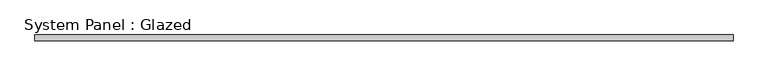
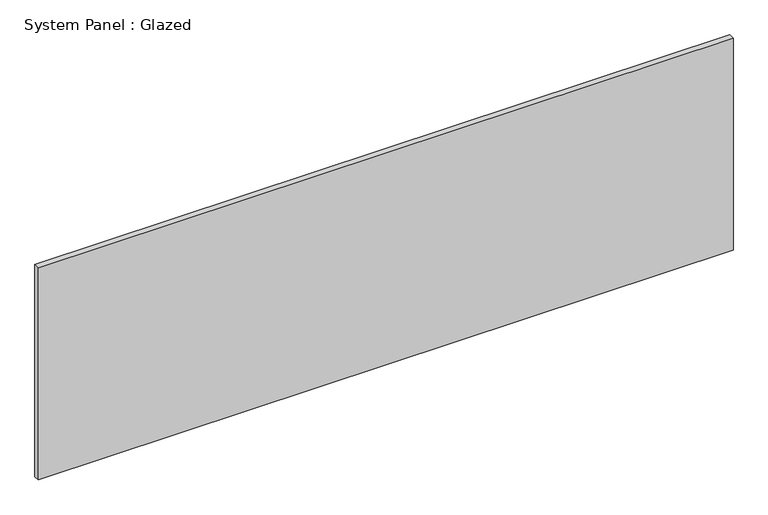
"""IFC4 building model written with IfcOpenShell, lengths in millimetres: plate geometry, System Panel : Glazed."""

import ifcopenshell
import ifcopenshell.guid

model = None  # the IFC model being written
_history = None  # IfcOwnerHistory: only IFC2X3 demands one
_inside = {}  # id of a spatial element -> (the spatial element, [elements in it])
_under = {}  # id of a project, library or spatial element -> (it, [spatial elements below it])
_declared = {}  # id of a project -> (the project, [libraries it declares])
_typed = {}  # id of a type object -> (the type object, [elements of that type])
_made_of = {}  # id of a material, layer set ... -> (it, [elements and type objects made of it])


def new_model(schema):
    """Start an empty IFC model of exactly this schema.

    Asked for "IFC4X3", IfcOpenShell would pick the latest addendum, in which some entities
    have other attributes; the version numbers below select the first issue.
    IFC2X3 requires an IfcOwnerHistory on every rooted entity: one is made here for all.
    """
    global model, _history
    if schema == "IFC4X3":
        model = ifcopenshell.file(schema_version=(4, 3, 0, 0))
    else:
        model = ifcopenshell.file(schema=schema)
    _inside.clear()
    _under.clear()
    _declared.clear()
    _typed.clear()
    _made_of.clear()
    _history = None
    if model.schema == "IFC2X3":
        org = make("IfcOrganization", Name="unknown")
        user = make(
            "IfcPersonAndOrganization",
            ThePerson=make("IfcPerson", FamilyName="unknown"),
            TheOrganization=org,
        )
        app = make(
            "IfcApplication",
            ApplicationDeveloper=org,
            Version="unknown",
            ApplicationFullName="unknown",
            ApplicationIdentifier="unknown",
        )
        _history = make(
            "IfcOwnerHistory",
            OwningUser=user,
            OwningApplication=app,
            ChangeAction="ADDED",
            CreationDate=0,
        )
    return model


def make(cls, **values):
    """One entity of the class cls with the attributes given. An attribute that is None is left unset."""
    return model.create_entity(
        cls, **{name: value for name, value in values.items() if value is not None}
    )


def rooted(cls, **values):
    """An entity with a GlobalId (a new one), such as an element, a storey or a relation."""
    return make(cls, GlobalId=ifcopenshell.guid.new(), OwnerHistory=_history, **values)


def si_unit(unit_type, name, prefix=None):
    """IfcSIUnit, for example si_unit("LENGTHUNIT", "METRE", prefix="MILLI")."""
    return make("IfcSIUnit", UnitType=unit_type, Prefix=prefix, Name=name)


def assignment(units):
    """IfcUnitAssignment: the units of a project."""
    return None if units is None else make("IfcUnitAssignment", Units=units)


def point(xyz):
    """IfcCartesianPoint."""
    return None if xyz is None else make("IfcCartesianPoint", Coordinates=xyz)


def direction(xyz):
    """IfcDirection."""
    return None if xyz is None else make("IfcDirection", DirectionRatios=xyz)


def frame(location, z_axis=None, x_axis=None):
    """IfcAxis2Placement3D, a coordinate frame: its origin and axes. An axis left out is left unset."""
    return make(
        "IfcAxis2Placement3D",
        Location=point(location),
        Axis=direction(z_axis),
        RefDirection=direction(x_axis),
    )


def origin():
    """The frame at (0, 0, 0) with its axes left unset."""
    return frame((0.0, 0.0, 0.0))


def origin_with_axes():
    """The frame at (0, 0, 0) with the z axis (0, 0, 1) and the x axis (1, 0, 0) written out."""
    return frame((0.0, 0.0, 0.0), z_axis=(0.0, 0.0, 1.0), x_axis=(1.0, 0.0, 0.0))


def place(relative_to, where):
    """IfcLocalPlacement: puts the frame where relative to a parent placement (None: the world)."""
    return make(
        "IfcLocalPlacement", PlacementRelTo=relative_to, RelativePlacement=where
    )


def context(
    kind, dimensions, precision=None, world=None, true_north=None, identifier=None
):
    """IfcGeometricRepresentationContext, for example the 3D "Model" context."""
    return make(
        "IfcGeometricRepresentationContext",
        ContextIdentifier=identifier,
        ContextType=kind,
        CoordinateSpaceDimension=dimensions,
        Precision=precision,
        WorldCoordinateSystem=world,
        TrueNorth=true_north,
    )


def project(units=None, contexts=None):
    """IfcProject with its units and contexts."""
    return rooted(
        "IfcProject",
        Name="project",
        RepresentationContexts=contexts,
        UnitsInContext=assignment(units),
    )


def spatial(cls, under=None, at=None, **own):
    """A site, building, storey or space (cls), placed at a placement, below another one or the project."""
    s = rooted(cls, ObjectPlacement=at, **own)
    if under is not None:
        _under.setdefault(under.id(), (under, []))[1].append(s)
    return s


def polyline(points):
    """IfcPolyline through the points."""
    return make("IfcPolyline", Points=[point(p) for p in points])


def outline(outer, holes=None, kind="AREA"):
    """IfcArbitraryClosedProfileDef: a profile drawn as a closed curve; with holes, ...WithVoids."""
    if holes is None:
        return make("IfcArbitraryClosedProfileDef", ProfileType=kind, OuterCurve=outer)
    return make(
        "IfcArbitraryProfileDefWithVoids",
        ProfileType=kind,
        OuterCurve=outer,
        InnerCurves=holes,
    )


def extrude(swept, where, along, depth):
    """IfcExtrudedAreaSolid: the profile swept, set in the frame where, extruded along a direction by depth."""
    return make(
        "IfcExtrudedAreaSolid",
        SweptArea=swept,
        Position=where,
        ExtrudedDirection=direction(along),
        Depth=depth,
    )


def shape(context_of_items, identifier, shape_type, items):
    """IfcShapeRepresentation: the items that make up one representation, for example the "Body"."""
    return make(
        "IfcShapeRepresentation",
        ContextOfItems=context_of_items,
        RepresentationIdentifier=identifier,
        RepresentationType=shape_type,
        Items=items,
    )


def source(mapping_origin, context_of_items, identifier, shape_type, items):
    """IfcRepresentationMap: a shape defined once, which mapped items show again and again."""
    return make(
        "IfcRepresentationMap",
        MappingOrigin=mapping_origin,
        MappedRepresentation=shape(context_of_items, identifier, shape_type, items),
    )


def transform(
    local_origin,
    x_axis=None,
    y_axis=None,
    z_axis=None,
    scale=None,
    scale2=None,
    scale3=None,
    uniform=True,
):
    """IfcCartesianTransformationOperator3D, or its non-uniform kind. x_axis, y_axis, z_axis: its Axis1, 2, 3."""
    if uniform:
        return make(
            "IfcCartesianTransformationOperator3D",
            Axis1=direction(x_axis),
            Axis2=direction(y_axis),
            LocalOrigin=point(local_origin),
            Scale=scale,
            Axis3=direction(z_axis),
        )
    return make(
        "IfcCartesianTransformationOperator3DnonUniform",
        Axis1=direction(x_axis),
        Axis2=direction(y_axis),
        LocalOrigin=point(local_origin),
        Scale=scale,
        Axis3=direction(z_axis),
        Scale2=scale2,
        Scale3=scale3,
    )


def mapped(mapping_source, mapping_target):
    """IfcMappedItem: shows the shape of a source again, moved by a transform."""
    return make(
        "IfcMappedItem", MappingSource=mapping_source, MappingTarget=mapping_target
    )


def made_of(thing, what):
    """Note that an element or type object is made of a material, layer set ...; save() writes the relation."""
    if what is not None:
        _made_of.setdefault(what.id(), (what, []))[1].append(thing)
    return thing


def element(
    cls,
    number,
    at=None,
    inside=None,
    cuts=None,
    type_object=None,
    material=None,
    context=None,
    identifier="Body",
    shape_type=None,
    held_by="IfcProductDefinitionShape",
    body=None,
    shapes=None,
    **own,
):
    """One element of the class cls, such as IfcWall. Its Tag is "e" and its number.

    at: its placement. inside: the storey or other place that contains it. cuts: it is an
    opening in that element (IfcRelVoidsElement). A single representation is given by context,
    identifier, shape_type and body (its items); several are given by shapes. held_by: the class
    of the entity that holds the representations. save() writes the other relations.
    """
    e = rooted(cls, Tag="e%d" % number, ObjectPlacement=at, **own)
    if body is not None:
        shapes = [shape(context, identifier, shape_type, body)]
    if shapes is not None:
        e.Representation = make(held_by, Representations=shapes)
    if inside is not None:
        _inside.setdefault(inside.id(), (inside, []))[1].append(e)
    if cuts is not None:
        rooted(
            "IfcRelVoidsElement", RelatingBuildingElement=cuts, RelatedOpeningElement=e
        )
    if type_object is not None:
        _typed.setdefault(type_object.id(), (type_object, []))[1].append(e)
    return made_of(e, material)


def aggregate(whole, parts):
    """IfcRelAggregates: a whole, such as a stair, and the parts it consists of."""
    return rooted("IfcRelAggregates", RelatingObject=whole, RelatedObjects=parts)


def save(model, path):
    """Write the relations noted so far, then the file.

    IfcRelAggregates (storeys below a building ...), IfcRelContainedInSpatialStructure (elements
    in a storey), IfcRelDefinesByType, IfcRelAssociatesMaterial and IfcRelDeclares: one each for
    every whole, place, type object, material and project.
    """
    for whole, parts in _under.values():
        aggregate(whole, parts)
    for where, things in _inside.values():
        rooted(
            "IfcRelContainedInSpatialStructure",
            RelatedElements=things,
            RelatingStructure=where,
        )
    for kind, things in _typed.values():
        rooted("IfcRelDefinesByType", RelatedObjects=things, RelatingType=kind)
    for what, things in _made_of.values():
        rooted("IfcRelAssociatesMaterial", RelatedObjects=things, RelatingMaterial=what)
    for by, libraries in _declared.values():
        rooted("IfcRelDeclares", RelatingContext=by, RelatedDefinitions=libraries)
    model.write(path)


def system_panel_glazed_e8362dec(model_context):
    return source(origin(), model_context, "Body", "SweptSolid", [
        extrude(outline(polyline([(1504.95, 19.05), (-1504.95, 19.05), (-1504.95, 44.45), (1504.95, 44.45), (1504.95, 19.05)])), origin_with_axes(), (0.0, 0.0, 1.0), 971.55),
    ])


if __name__ == "__main__":
    model = new_model("IFC4")
    model_context = context("Model", 3, world=origin())
    ifc_project = project(units=[si_unit("LENGTHUNIT", "METRE", prefix="MILLI")], contexts=[model_context])
    site = spatial("IfcSite", under=ifc_project)
    building = spatial("IfcBuilding", under=site)
    placement = place(None, origin())
    system_panel_glazed_shape = system_panel_glazed_e8362dec(model_context)
    element("IfcPlate", 1, ObjectType="System Panel : Glazed", at=placement, inside=building, context=model_context, shape_type="MappedRepresentation", body=[
        mapped(system_panel_glazed_shape, transform((0.0, 0.0, 0.0), x_axis=(1.0, 0.0, 0.0), y_axis=(0.0, 1.0, 0.0), z_axis=(0.0, 0.0, 1.0))),
    ])
    save(model, "model.ifc")
